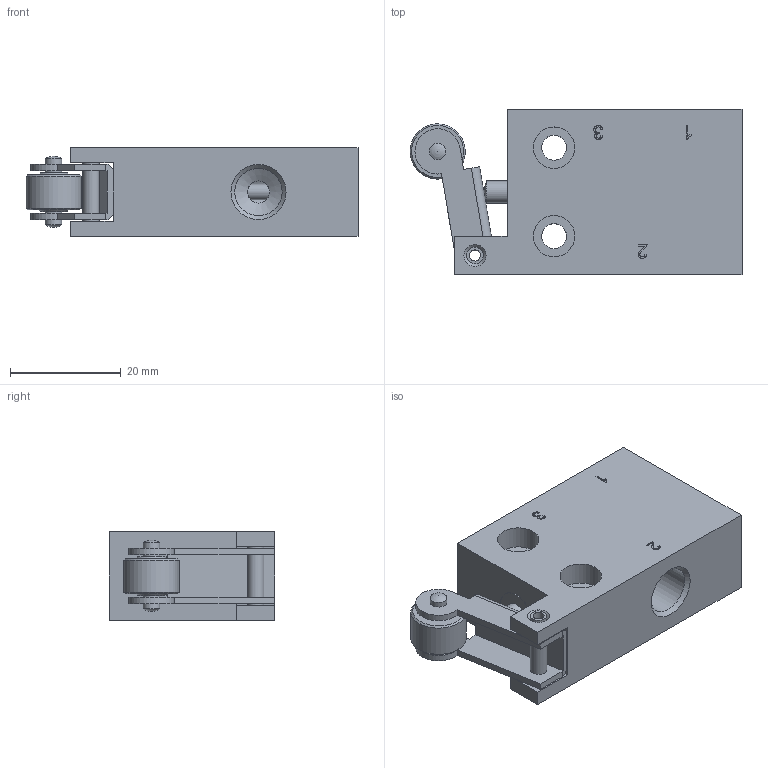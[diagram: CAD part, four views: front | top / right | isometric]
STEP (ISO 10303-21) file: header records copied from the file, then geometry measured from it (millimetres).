
FILE_DESCRIPTION(/* description */ ('Unknown'),/* implementation_level */ '2;1');
FILE_NAME(/* name */ 'BR 311 301',/* time_stamp */ '2017-09-15T14:41:28+02:00',/* author */ ('Unknown'),/* organization */ ('Unknown'),/* preprocessor_version */ 'ST-DEVELOPER v16.7',/* originating_system */ 'DEX',/* authorisation */ $);
FILE_SCHEMA (('AUTOMOTIVE_DESIGN {1 0 10303 214 3 1 1}'));
Length unit declared in the file: millimetre
Products named in the file (2): BR 311 301
Assembly tree (1 placements, depth 2):
  BR 311 301
    BR 311 301
Bounding box: 60.06 x 30 x 16.2 mm (x, y, z)
Volume: 17954.1 mm3; surface area: 10497.3 mm2
Topology: 8 solids, 8 shells, 187 faces, 471 edges, 313 vertices
Faces by surface type: plane 74, cylinder 48, bspline 39, cone 23, sphere 3
Full cylindrical faces by diameter (mm): 1 x1, 2 x1, 2.8 x1, 2.9 x1, 3 x8, 4 x5, 4.05 x1, 4.5 x2, 5 x1, 6 x1, 7 x1, 7.5 x4, 8 x1, 8.06 x1, 8.08 x1, 8.566 x6, 10 x1
Entity records: 6551 total; most frequent: CARTESIAN_POINT 1688, ORIENTED_EDGE 758, DIRECTION 706, EDGE_CURVE 379, EDGE_LOOP 294, FACE_BOUND 294, VERTEX_POINT 283, AXIS2_PLACEMENT_3D 260
